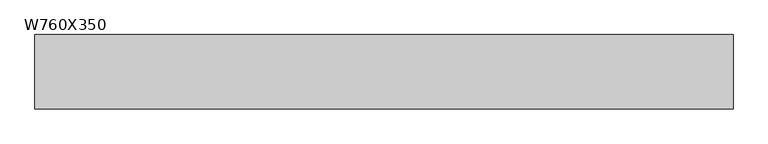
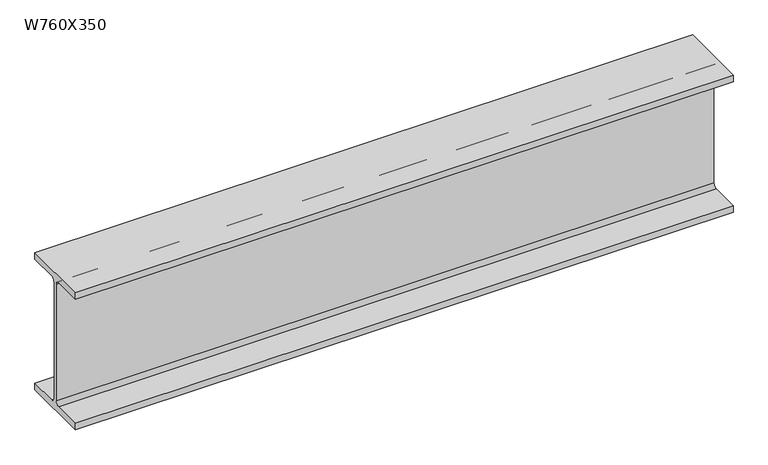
"""IFC4 building model written with IfcOpenShell, lengths in millimetres: beam geometry, M_W-Wide Flange : W760X350."""

from ifc_helpers import new_model, si_unit, point, frame, frame_2d, origin, place, context, project, spatial, polyline, circle_curve, trimmed, segment, composite_curve, outline, extrude, source, transform, mapped, element, save


def w760x350_5a9d4526(model_context):
    return source(origin(), model_context, "Body", "SweptSolid", [
        extrude(outline(composite_curve([segment(polyline([(192.0, -359.4), (192.0, -397.5), (-192.0, -397.5), (-192.0, -359.4), (-32.75, -359.4)]), True, "CONTINUOUS"), segment(trimmed(circle_curve(frame_2d((-32.75, -337.2)), 22.2), [point((-32.75, -359.4))], [point((-10.55, -337.2))], True, "CARTESIAN"), True, "CONTINUOUS"), segment(polyline([(-10.55, -337.2), (-10.55, 337.2)]), True, "CONTINUOUS"), segment(trimmed(circle_curve(frame_2d((-32.75, 337.2)), 22.2), [point((-10.55, 337.2))], [point((-32.75, 359.4))], True, "CARTESIAN"), True, "CONTINUOUS"), segment(polyline([(-32.75, 359.4), (-192.0, 359.4), (-192.0, 397.5), (192.0, 397.5), (192.0, 359.4), (32.75, 359.4)]), True, "CONTINUOUS"), segment(trimmed(circle_curve(frame_2d((32.75, 337.2)), 22.2), [point((32.75, 359.4))], [point((10.55, 337.2))], True, "CARTESIAN"), True, "CONTINUOUS"), segment(polyline([(10.55, 337.2), (10.55, -337.2)]), True, "CONTINUOUS"), segment(trimmed(circle_curve(frame_2d((32.75, -337.2)), 22.2), [point((10.55, -337.2))], [point((32.75, -359.4))], True, "CARTESIAN"), True, "CONTINUOUS"), segment(polyline([(32.75, -359.4), (192.0, -359.4)]), True, "CONTINUOUS")], self_intersect=False)), frame((-1773.447609, 0.0, 0.0), z_axis=(1.0, 0.0, 0.0), x_axis=(0.0, 1.0, 0.0)), (0.0, 0.0, 1.0), 3609.0437695),
    ])


if __name__ == "__main__":
    model = new_model("IFC4")
    model_context = context("Model", 3, world=origin())
    ifc_project = project(units=[si_unit("LENGTHUNIT", "METRE", prefix="MILLI")], contexts=[model_context])
    site = spatial("IfcSite", under=ifc_project)
    building = spatial("IfcBuilding", under=site)
    placement = place(None, origin())
    w760x350_shape = w760x350_5a9d4526(model_context)
    element("IfcBeam", 1, ObjectType="M_W-Wide Flange : W760X350", at=placement, inside=building, context=model_context, shape_type="MappedRepresentation", body=[
        mapped(w760x350_shape, transform((0.0, 0.0, 0.0), x_axis=(1.0, 0.0, 0.0), y_axis=(0.0, 1.0, 0.0), z_axis=(0.0, 0.0, 1.0))),
    ])
    save(model, "model.ifc")
